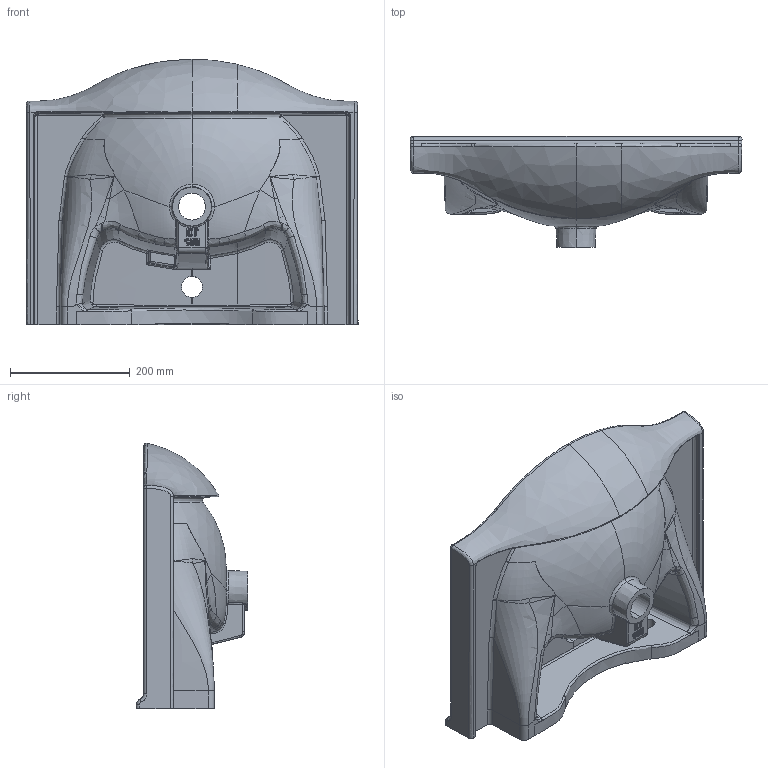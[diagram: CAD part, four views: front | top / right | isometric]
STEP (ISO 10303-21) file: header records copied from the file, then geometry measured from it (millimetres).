
FILE_DESCRIPTION (( 'STEP AP203' ), '1' );
FILE_NAME ('ET155-00CB00E-0000 MODEL.STEP', '2022-05-10T12:31:53', ( '' ), ( '' ), 'SwSTEP 2.0', 'SolidWorks 2021', '' );
FILE_SCHEMA (( 'CONFIG_CONTROL_DESIGN' ));
Products named in the file (1): ET155-00CB00E-0000 MODEL
Bounding box: 555.44 x 186 x 443.97 mm (x, y, z)
Volume: 9225232.4 mm3; surface area: 786007 mm2
Topology: 2 solids, 2 shells, 704 faces, 1723 edges, 1000 vertices
Faces by surface type: bspline 400, cylinder 156, plane 89, sphere 54, cone 5
Entity records: 205211 total; most frequent: CARTESIAN_POINT 192023, ORIENTED_EDGE 3392, DIRECTION 1840, EDGE_CURVE 1696, VERTEX_POINT 998, B_SPLINE_CURVE_WITH_KNOTS 755, AXIS2_PLACEMENT_3D 728, EDGE_LOOP 714
